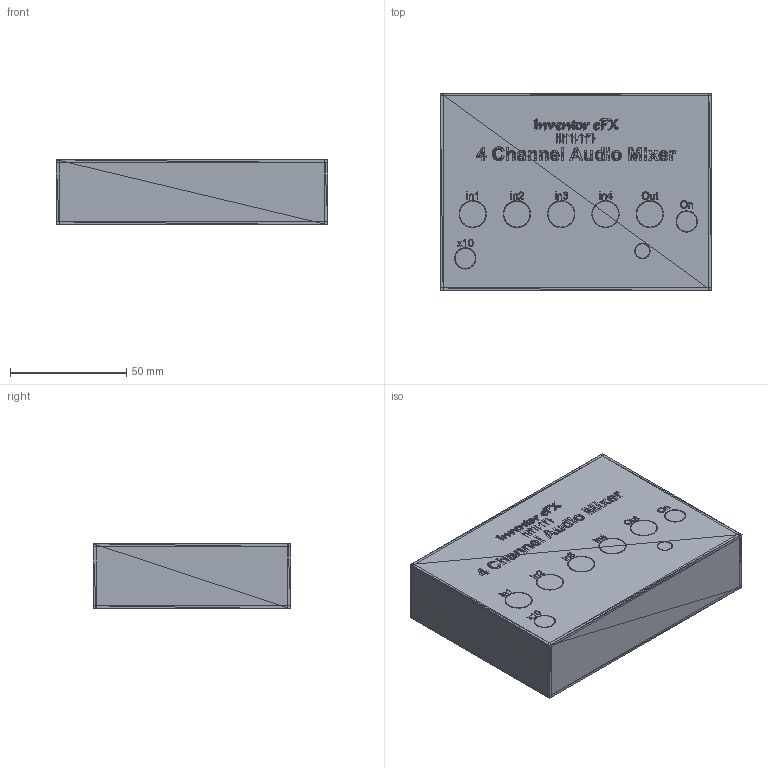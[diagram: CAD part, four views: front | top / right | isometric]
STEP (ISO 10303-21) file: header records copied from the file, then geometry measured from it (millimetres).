
FILE_DESCRIPTION(('HOOPS Exchange Step'),'2;1');
FILE_NAME('***.stp');
FILE_SCHEMA( ('AP242_MANAGED_MODEL_BASED_3D_ENGINEERING_MIM_LF {1 0 10303 442 1 1 4 }') );
Length unit declared in the file: inch
Products named in the file (78): AUDIOMXRBX_2; AUDIOMXRBX_3; AUDIOMXRBX_4; AUDIOMXRBX_5; AUDIOMXRBX_6; AUDIOMXRBX_7; AUDIOMXRBX_8; AUDIOMXRBX_9; AUDIOMXRBX_10; AUDIOMXRBX_11; AUDIOMXRBX_12; AUDIOMXRBX_13; AUDIOMXRBX_14; AUDIOMXRBX_15; AUDIOMXRBX_16; AUDIOMXRBX_17; AUDIOMXRBX_18; AUDIOMXRBX_19; AUDIOMXRBX_20; AUDIOMXRBX_21; AUDIOMXRBX_22; AUDIOMXRBX_23; AUDIOMXRBX_24; AUDIOMXRBX_25; AUDIOMXRBX_26; AUDIOMXRBX_27; AUDIOMXRBX_28; AUDIOMXRBX_29; AUDIOMXRBX_30; AUDIOMXRBX_31; AUDIOMXRBX_32; AUDIOMXRBX_33; AUDIOMXRBX_34; AUDIOMXRBX_35; AUDIOMXRBX_36; AUDIOMXRBX_37; AUDIOMXRBX_38; AUDIOMXRBX_39; AUDIOMXRBX_40; AUDIOMXRBX_41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
Assembly tree (77 placements, depth 2):
  AUDIOMXRBX
    AUDIOMXRBX_2
    AUDIOMXRBX_3
    AUDIOMXRBX_4
    AUDIOMXRBX_5
    AUDIOMXRBX_6
    AUDIOMXRBX_7
    AUDIOMXRBX_8
    AUDIOMXRBX_9
    AUDIOMXRBX_10
    AUDIOMXRBX_11
    AUDIOMXRBX_12
    AUDIOMXRBX_13
    AUDIOMXRBX_14
    AUDIOMXRBX_15
    AUDIOMXRBX_16
    AUDIOMXRBX_17
    AUDIOMXRBX_18
    AUDIOMXRBX_19
    AUDIOMXRBX_20
    AUDIOMXRBX_21
    AUDIOMXRBX_22
    AUDIOMXRBX_23
    AUDIOMXRBX_24
    AUDIOMXRBX_25
    AUDIOMXRBX_26
    AUDIOMXRBX_27
    AUDIOMXRBX_28
    AUDIOMXRBX_29
    AUDIOMXRBX_30
    AUDIOMXRBX_31
    AUDIOMXRBX_32
    AUDIOMXRBX_33
    AUDIOMXRBX_34
    AUDIOMXRBX_35
    AUDIOMXRBX_36
    AUDIOMXRBX_37
    AUDIOMXRBX_38
    AUDIOMXRBX_39
    AUDIOMXRBX_40
    AUDIOMXRBX_41
    AUDIOMXRBX_42
    AUDIOMXRBX_43
    AUDIOMXRBX_44
    AUDIOMXRBX_45
    AUDIOMXRBX_46
    AUDIOMXRBX_47
    AUDIOMXRBX_48
    AUDIOMXRBX_49
    AUDIOMXRBX_50
    AUDIOMXRBX_51
    AUDIOMXRBX_52
    AUDIOMXRBX_53
    AUDIOMXRBX_54
    AUDIOMXRBX_55
    AUDIOMXRBX_56
    AUDIOMXRBX_57
    AUDIOMXRBX_58
    AUDIOMXRBX_59
    AUDIOMXRBX_60
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Bounding box: 116.84 x 85.1 x 28.18 mm (x, y, z)
Volume: 39582.9 mm3; surface area: 65428.5 mm2
Topology: 81 solids, 3680 shells, 7066 faces, 7455 edges, 4028 vertices
Faces by surface type: plane 7066
Entity records: 126785 total; most frequent: DIRECTION 21899, ORIENTED_EDGE 21198, CARTESIAN_POINT 18705, VECTOR 7455, LINE 7455, EDGE_CURVE 7455, AXIS2_PLACEMENT_3D 7222, PLANE 7066
